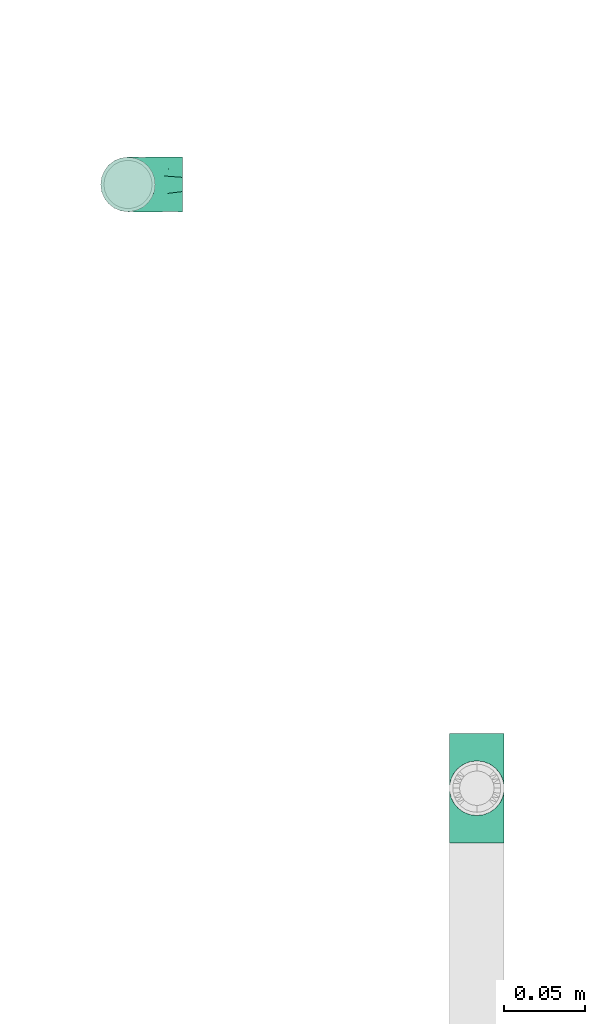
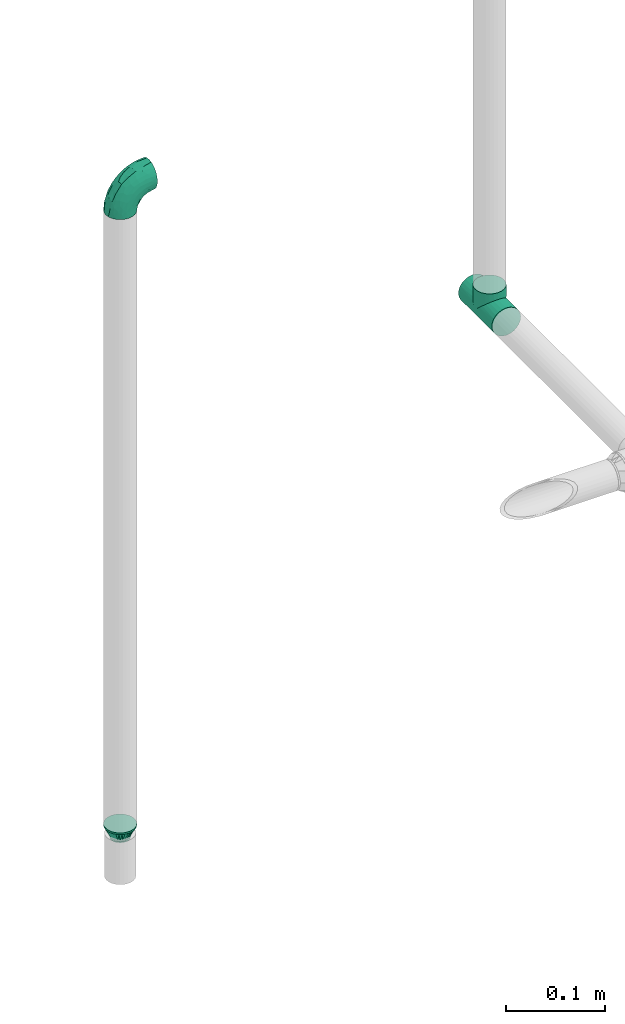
# One storey, part 34 of 94: 3 flow fittings.
"""IFC2X3 building model written with IfcOpenShell, lengths in millimetres."""

import ifcopenshell
import ifcopenshell.guid

model = None  # the IFC model being written
_history = None  # IfcOwnerHistory: only IFC2X3 demands one
_inside = {}  # id of a spatial element -> (the spatial element, [elements in it])
_under = {}  # id of a project, library or spatial element -> (it, [spatial elements below it])
_declared = {}  # id of a project -> (the project, [libraries it declares])
_typed = {}  # id of a type object -> (the type object, [elements of that type])
_made_of = {}  # id of a material, layer set ... -> (it, [elements and type objects made of it])


def new_model(schema):
    """Start an empty IFC model of exactly this schema.

    Asked for "IFC4X3", IfcOpenShell would pick the latest addendum, in which some entities
    have other attributes; the version numbers below select the first issue.
    IFC2X3 requires an IfcOwnerHistory on every rooted entity: one is made here for all.
    """
    global model, _history
    if schema == "IFC4X3":
        model = ifcopenshell.file(schema_version=(4, 3, 0, 0))
    else:
        model = ifcopenshell.file(schema=schema)
    _inside.clear()
    _under.clear()
    _declared.clear()
    _typed.clear()
    _made_of.clear()
    _history = None
    if model.schema == "IFC2X3":
        org = make("IfcOrganization", Name="unknown")
        user = make(
            "IfcPersonAndOrganization",
            ThePerson=make("IfcPerson", FamilyName="unknown"),
            TheOrganization=org,
        )
        app = make(
            "IfcApplication",
            ApplicationDeveloper=org,
            Version="unknown",
            ApplicationFullName="unknown",
            ApplicationIdentifier="unknown",
        )
        _history = make(
            "IfcOwnerHistory",
            OwningUser=user,
            OwningApplication=app,
            ChangeAction="ADDED",
            CreationDate=0,
        )
    return model


def make(cls, **values):
    """One entity of the class cls with the attributes given. An attribute that is None is left unset."""
    return model.create_entity(
        cls, **{name: value for name, value in values.items() if value is not None}
    )


def entity(cls, *values):
    """Any entity or typed value of the class cls, its attributes in the order of the schema. None: left unset."""
    e = model.create_entity(cls)
    for i, value in enumerate(values):
        if value is not None:
            e[i] = value
    return e


def rooted(cls, **values):
    """An entity with a GlobalId (a new one), such as an element, a storey or a relation."""
    return make(cls, GlobalId=ifcopenshell.guid.new(), OwnerHistory=_history, **values)


def si_unit(unit_type, name, prefix=None):
    """IfcSIUnit, for example si_unit("LENGTHUNIT", "METRE", prefix="MILLI")."""
    return make("IfcSIUnit", UnitType=unit_type, Prefix=prefix, Name=name)


def converted_unit(unit_type, name, factor, base, dimensions=None, offset=None):
    """IfcConversionBasedUnit, such as the inch: factor (a typed value) times the base unit."""
    return make(
        "IfcConversionBasedUnit"
        if offset is None
        else "IfcConversionBasedUnitWithOffset",
        ConversionOffset=offset,
        Dimensions=None
        if dimensions is None
        else entity("IfcDimensionalExponents", *dimensions),
        UnitType=unit_type,
        Name=name,
        ConversionFactor=make(
            "IfcMeasureWithUnit", ValueComponent=factor, UnitComponent=base
        ),
    )


def derived_unit(unit_type, elements):
    """IfcDerivedUnit: a product of units, each with its exponent."""
    return make(
        "IfcDerivedUnit",
        Elements=[
            make("IfcDerivedUnitElement", Unit=unit, Exponent=power)
            for unit, power in elements
        ],
        UnitType=unit_type,
    )


def assignment(units):
    """IfcUnitAssignment: the units of a project."""
    return None if units is None else make("IfcUnitAssignment", Units=units)


def point(xyz):
    """IfcCartesianPoint."""
    return None if xyz is None else make("IfcCartesianPoint", Coordinates=xyz)


def direction(xyz):
    """IfcDirection."""
    return None if xyz is None else make("IfcDirection", DirectionRatios=xyz)


def frame(location, z_axis=None, x_axis=None):
    """IfcAxis2Placement3D, a coordinate frame: its origin and axes. An axis left out is left unset."""
    return make(
        "IfcAxis2Placement3D",
        Location=point(location),
        Axis=direction(z_axis),
        RefDirection=direction(x_axis),
    )


def origin_with_axes():
    """The frame at (0, 0, 0) with the z axis (0, 0, 1) and the x axis (1, 0, 0) written out."""
    return frame((0.0, 0.0, 0.0), z_axis=(0.0, 0.0, 1.0), x_axis=(1.0, 0.0, 0.0))


def place(relative_to, where):
    """IfcLocalPlacement: puts the frame where relative to a parent placement (None: the world)."""
    return make(
        "IfcLocalPlacement", PlacementRelTo=relative_to, RelativePlacement=where
    )


def context(
    kind, dimensions, precision=None, world=None, true_north=None, identifier=None
):
    """IfcGeometricRepresentationContext, for example the 3D "Model" context."""
    return make(
        "IfcGeometricRepresentationContext",
        ContextIdentifier=identifier,
        ContextType=kind,
        CoordinateSpaceDimension=dimensions,
        Precision=precision,
        WorldCoordinateSystem=world,
        TrueNorth=true_north,
    )


def subcontext(parent, identifier, kind, view, scale=None):
    """IfcGeometricRepresentationSubContext, for example "Body" below "Model"."""
    return make(
        "IfcGeometricRepresentationSubContext",
        ContextIdentifier=identifier,
        ContextType=kind,
        ParentContext=parent,
        TargetScale=scale,
        TargetView=view,
    )


def project(units=None, contexts=None):
    """IfcProject with its units and contexts."""
    return rooted(
        "IfcProject",
        Name="project",
        RepresentationContexts=contexts,
        UnitsInContext=assignment(units),
    )


def spatial(cls, under=None, at=None, **own):
    """A site, building, storey or space (cls), placed at a placement, below another one or the project."""
    s = rooted(cls, ObjectPlacement=at, **own)
    if under is not None:
        _under.setdefault(under.id(), (under, []))[1].append(s)
    return s


def faces_of(points, faces, orient=None, outer=None):
    """IfcFace entities. A face is a list of loops; a loop is a list of indices into points, from 0.

    orient and outer hold one flag for each loop. By default every Orientation is true, the
    first loop of a face is its IfcFaceOuterBound and the others are IfcFaceBound.
    """
    made = []
    for i, loops in enumerate(faces):
        bounds = []
        for j, loop in enumerate(loops):
            is_outer = j == 0 if outer is None else outer[i][j]
            bounds.append(
                make(
                    "IfcFaceOuterBound" if is_outer else "IfcFaceBound",
                    Bound=make("IfcPolyLoop", Polygon=[points[k] for k in loop]),
                    Orientation=True if orient is None else orient[i][j],
                )
            )
        made.append(make("IfcFace", Bounds=bounds))
    return made


def open_shell(faces, orient=None, outer=None):
    """The faces of one IfcOpenShell. surface_model builds it on its shared points."""
    return ("IfcOpenShell", faces, orient, outer)


def surface_model(cls, points, shells):
    """IfcFaceBasedSurfaceModel or IfcShellBasedSurfaceModel (cls): surfaces that need not close."""
    shared = [point(p) for p in points]
    made = [make(c, CfsFaces=faces_of(shared, fs, o, b)) for c, fs, o, b in shells]
    if cls == "IfcFaceBasedSurfaceModel":
        return make(cls, FbsmFaces=made)
    return make(cls, SbsmBoundary=made)


def shape(context_of_items, identifier, shape_type, items):
    """IfcShapeRepresentation: the items that make up one representation, for example the "Body"."""
    return make(
        "IfcShapeRepresentation",
        ContextOfItems=context_of_items,
        RepresentationIdentifier=identifier,
        RepresentationType=shape_type,
        Items=items,
    )


def source(mapping_origin, context_of_items, identifier, shape_type, items):
    """IfcRepresentationMap: a shape defined once, which mapped items show again and again."""
    return make(
        "IfcRepresentationMap",
        MappingOrigin=mapping_origin,
        MappedRepresentation=shape(context_of_items, identifier, shape_type, items),
    )


def transform(
    local_origin,
    x_axis=None,
    y_axis=None,
    z_axis=None,
    scale=None,
    scale2=None,
    scale3=None,
    uniform=True,
):
    """IfcCartesianTransformationOperator3D, or its non-uniform kind. x_axis, y_axis, z_axis: its Axis1, 2, 3."""
    if uniform:
        return make(
            "IfcCartesianTransformationOperator3D",
            Axis1=direction(x_axis),
            Axis2=direction(y_axis),
            LocalOrigin=point(local_origin),
            Scale=scale,
            Axis3=direction(z_axis),
        )
    return make(
        "IfcCartesianTransformationOperator3DnonUniform",
        Axis1=direction(x_axis),
        Axis2=direction(y_axis),
        LocalOrigin=point(local_origin),
        Scale=scale,
        Axis3=direction(z_axis),
        Scale2=scale2,
        Scale3=scale3,
    )


def mapped(mapping_source, mapping_target):
    """IfcMappedItem: shows the shape of a source again, moved by a transform."""
    return make(
        "IfcMappedItem", MappingSource=mapping_source, MappingTarget=mapping_target
    )


def made_of(thing, what):
    """Note that an element or type object is made of a material, layer set ...; save() writes the relation."""
    if what is not None:
        _made_of.setdefault(what.id(), (what, []))[1].append(thing)
    return thing


def type_object(cls, material=None, **own):
    """A type object (cls), such as IfcWallType, which elements share."""
    return made_of(rooted(cls, **own), material)


def element(
    cls,
    number,
    at=None,
    inside=None,
    cuts=None,
    type_object=None,
    material=None,
    context=None,
    identifier="Body",
    shape_type=None,
    held_by="IfcProductDefinitionShape",
    body=None,
    shapes=None,
    **own,
):
    """One element of the class cls, such as IfcWall. Its Tag is "e" and its number.

    at: its placement. inside: the storey or other place that contains it. cuts: it is an
    opening in that element (IfcRelVoidsElement). A single representation is given by context,
    identifier, shape_type and body (its items); several are given by shapes. held_by: the class
    of the entity that holds the representations. save() writes the other relations.
    """
    e = rooted(cls, Tag="e%d" % number, ObjectPlacement=at, **own)
    if body is not None:
        shapes = [shape(context, identifier, shape_type, body)]
    if shapes is not None:
        e.Representation = make(held_by, Representations=shapes)
    if inside is not None:
        _inside.setdefault(inside.id(), (inside, []))[1].append(e)
    if cuts is not None:
        rooted(
            "IfcRelVoidsElement", RelatingBuildingElement=cuts, RelatedOpeningElement=e
        )
    if type_object is not None:
        _typed.setdefault(type_object.id(), (type_object, []))[1].append(e)
    return made_of(e, material)


def aggregate(whole, parts):
    """IfcRelAggregates: a whole, such as a stair, and the parts it consists of."""
    return rooted("IfcRelAggregates", RelatingObject=whole, RelatedObjects=parts)


def save(model, path):
    """Write the relations noted so far, then the file.

    IfcRelAggregates (storeys below a building ...), IfcRelContainedInSpatialStructure (elements
    in a storey), IfcRelDefinesByType, IfcRelAssociatesMaterial and IfcRelDeclares: one each for
    every whole, place, type object, material and project.
    """
    for whole, parts in _under.values():
        aggregate(whole, parts)
    for where, things in _inside.values():
        rooted(
            "IfcRelContainedInSpatialStructure",
            RelatedElements=things,
            RelatingStructure=where,
        )
    for kind, things in _typed.values():
        rooted("IfcRelDefinesByType", RelatedObjects=things, RelatingType=kind)
    for what, things in _made_of.values():
        rooted("IfcRelAssociatesMaterial", RelatedObjects=things, RelatingMaterial=what)
    for by, libraries in _declared.values():
        rooted("IfcRelDeclares", RelatingContext=by, RelatedDefinitions=libraries)
    model.write(path)


model = new_model("IFC2X3")

# Units and contexts
model_context = context("Model", 3, precision=0.01, world=frame((0.0, 4.29681676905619e-09, 0.0)), true_north=direction((4.01073788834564e-13, 1.0)))
plan_context = context("Plan", 3, precision=0.01, world=frame((0.0, 4.29681676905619e-09, 0.0)), true_north=direction((4.01073788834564e-13, 1.0)))
body_context = subcontext(model_context, "Body", "Model", "MODEL_VIEW")
ifc_project = project(units=[converted_unit("PLANEANGLEUNIT", "DEGREE", entity("IfcPositiveLengthMeasure", 0.0174532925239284), si_unit("PLANEANGLEUNIT", "RADIAN"), dimensions=[0, 0, 0, 0, 0, 0, 0]), si_unit("AREAUNIT", "SQUARE_METRE"), si_unit("LENGTHUNIT", "METRE", prefix="MILLI"), si_unit("MASSUNIT", "GRAM", prefix="KILO"), si_unit("POWERUNIT", "WATT"), si_unit("PRESSUREUNIT", "PASCAL", prefix="KILO"), si_unit("FORCEUNIT", "NEWTON", prefix="KILO"), si_unit("ELECTRICVOLTAGEUNIT", "VOLT"), si_unit("ELECTRICCURRENTUNIT", "AMPERE"), si_unit("THERMODYNAMICTEMPERATUREUNIT", "DEGREE_CELSIUS"), si_unit("TIMEUNIT", "SECOND"), si_unit("VOLUMEUNIT", "CUBIC_METRE"), derived_unit("LINEARVELOCITYUNIT", [(si_unit("LENGTHUNIT", "METRE"), 1), (si_unit("TIMEUNIT", "SECOND"), -1)]), derived_unit("VOLUMETRICFLOWRATEUNIT", [(si_unit("VOLUMEUNIT", "CUBIC_METRE"), 1), (si_unit("TIMEUNIT", "SECOND"), -1)]), derived_unit("THERMALTRANSMITTANCEUNIT", [(si_unit("POWERUNIT", "WATT"), 1), (si_unit("THERMODYNAMICTEMPERATUREUNIT", "KELVIN"), -1), (si_unit("AREAUNIT", "SQUARE_METRE"), -1)]), derived_unit("SOUNDPRESSUREUNIT", [(si_unit("PRESSUREUNIT", "PASCAL"), 1)])], contexts=[model_context, plan_context])

# Site, building, storey
site_placement = place(None, frame((0.0, -4.29681676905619e-09, 0.0), z_axis=(0.0, 0.0, 1.0), x_axis=(1.0, 0.0, 0.0)))
site = spatial("IfcSite", under=ifc_project, at=site_placement, CompositionType="ELEMENT")
building_placement = place(site_placement, frame((0.0, 4.29681676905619e-09, 0.0), z_axis=(0.0, 0.0, 1.0), x_axis=(1.0, 0.0, 0.0)))
building = spatial("IfcBuilding", under=site, at=building_placement, Name="mc-building", CompositionType="ELEMENT")
storey_placement = place(building_placement, frame((0.0, 0.0, 210900.0), z_axis=(0.0, 0.0, 1.0), x_axis=(1.0, 0.0, 0.0)))
storey = spatial("IfcBuildingStorey", under=building, at=storey_placement, Name="Nivå F", CompositionType="ELEMENT", Elevation=210900.0)

# Flow fittings
pipe_fitting_type_1 = type_object("IfcPipeFittingType", Name="magi_pipe_fe_tee_centric_90_NOR", PredefinedType="JUNCTION")
shared_shape_1 = source(origin_with_axes(), body_context, "Body", "SurfaceModel", [
    surface_model("IfcShellBasedSurfaceModel", [(-33.8, 4.37404, -16.32415), (-33.8, 0.0, -16.9), (-33.8, 16.32415, -4.37404), (-33.8, 8.45, -14.63583), (-33.8, 11.9501, -11.9501), (-33.8, 14.63583, -8.45), (-33.8, -16.9, 0.0), (-33.8, -11.9501, -11.9501), (-33.8, -14.63583, -8.45), (-33.8, -8.45, -14.63583), (-33.8, -4.37404, -16.32415), (-33.8, -16.32415, -4.37404), (-33.8, 14.63583, 8.45), (-33.8, 16.32415, 4.37404), (-33.8, -8.45, 14.63583), (-33.8, 8.45, 14.63583), (-33.8, 11.9501, 11.9501), (-33.8, 4.37404, 16.32415), (-33.8, 0.0, 16.9), (-33.8, -11.9501, 11.9501), (-33.8, -14.63583, 8.45), (-33.8, -16.32415, 4.37404), (-33.8, -4.37404, 16.32415), (-33.8, 16.9, 0.0), (33.8, 4.37404, -16.32415), (33.8, -16.9, 0.0), (33.8, 0.0, -16.9), (33.8, 14.63583, -8.45), (33.8, 8.45, -14.63583), (33.8, 16.32415, -4.37404), (33.8, 11.9501, -11.9501), (33.8, -16.32415, 4.37404), (33.8, -8.45, -14.63583), (33.8, -4.37404, -16.32415), (33.8, -11.9501, -11.9501), (33.8, -14.63583, -8.45), (33.8, -16.32415, -4.37404), (33.8, 16.32415, 4.37404), (33.8, 8.45, 14.63583), (33.8, 14.63583, 8.45), (33.8, 11.9501, 11.9501), (33.8, -8.45, 14.63583), (33.8, 4.37404, 16.32415), (33.8, -14.63583, 8.45), (33.8, -11.9501, 11.9501), (33.8, 0.0, 16.9), (33.8, -4.37404, 16.32415), (33.8, 16.9, 0.0), (16.28698, -16.28698, 4.51047), (16.9, -16.9, 0.0), (14.62704, -14.62704, 8.4652), (9.47213, -9.47213, 13.99602), (12.26343, -12.26343, 11.62834), (-16.9, -16.9, 0.0), (-16.28698, -16.28698, 4.51047), (-14.62704, -14.62704, 8.4652), (-12.26343, -12.26343, 11.62834), (-9.47213, -9.47213, 13.99602), (-6.42894, -6.42894, 15.62942), (6.42894, -6.42894, 15.62942), (3.24522, -3.24522, 16.58549), (0.0, 0.0, 16.9), (-3.24522, -3.24522, 16.58549), (3.24522, -3.24522, -16.58549), (0.0, 0.0, -16.9), (-3.24522, -3.24522, -16.58549), (-6.42894, -6.42894, -15.62942), (6.42894, -6.42894, -15.62942), (9.47213, -9.47213, -13.99602), (12.26343, -12.26343, -11.62834), (14.62704, -14.62704, -8.4652), (16.28698, -16.28698, -4.51047), (-9.47213, -9.47213, -13.99602), (-12.26343, -12.26343, -11.62834), (-16.28698, -16.28698, -4.51047), (-14.62704, -14.62704, -8.4652), (4.37404, -25.35, -16.32415), (-16.9, -25.35, 0.0), (0.0, -25.35, -16.9), (14.63583, -25.35, -8.45), (8.45, -25.35, -14.63583), (16.32415, -25.35, -4.37404), (11.9501, -25.35, -11.9501), (-11.9501, -25.35, -11.9501), (-8.45, -25.35, -14.63583), (-4.37404, -25.35, -16.32415), (-14.63583, -25.35, -8.45), (-16.32415, -25.35, -4.37404), (16.9, -25.35, 0.0), (8.45, -25.35, 14.63583), (16.32415, -25.35, 4.37404), (14.63583, -25.35, 8.45), (-8.45, -25.35, 14.63583), (11.9501, -25.35, 11.9501), (4.37404, -25.35, 16.32415), (-16.32415, -25.35, 4.37404), (-11.9501, -25.35, 11.9501), (-14.63583, -25.35, 8.45), (0.0, -25.35, 16.9), (-4.37404, -25.35, 16.32415)], [open_shell([[[0, 1, 2]], [[3, 0, 4]], [[0, 2, 5]], [[4, 0, 5]], [[6, 2, 1]], [[7, 8, 9]], [[1, 10, 9]], [[11, 6, 8]], [[1, 9, 8]], [[1, 8, 6]], [[6, 12, 2]], [[12, 13, 2]], [[14, 12, 6]], [[12, 14, 15]], [[16, 12, 15]], [[17, 15, 18]], [[19, 14, 20]], [[21, 20, 14]], [[22, 18, 14]], [[14, 6, 21]], [[14, 18, 15]], [[23, 2, 13]], [[24, 25, 26]], [[27, 24, 28]], [[27, 29, 24]], [[27, 28, 30]], [[31, 25, 24]], [[26, 32, 33]], [[26, 34, 32]], [[35, 25, 36]], [[35, 34, 26]], [[25, 35, 26]], [[24, 29, 31]], [[29, 37, 38]], [[38, 37, 39]], [[38, 31, 29]], [[38, 39, 40]], [[41, 38, 42]], [[43, 41, 44]], [[41, 43, 31]], [[41, 45, 46]], [[41, 31, 38]], [[42, 45, 41]], [[29, 47, 37]], [[31, 43, 48]], [[25, 31, 49]], [[49, 31, 48]], [[43, 50, 48]], [[44, 41, 51]], [[50, 43, 52]], [[51, 52, 44]], [[52, 43, 44]], [[53, 54, 21]], [[53, 21, 6]], [[21, 54, 20]], [[54, 55, 20]], [[56, 57, 19]], [[19, 20, 56]], [[19, 57, 14]], [[56, 20, 55]], [[14, 57, 58]], [[51, 41, 59]], [[60, 45, 61]], [[59, 46, 60]], [[46, 59, 41]], [[60, 46, 45]], [[61, 45, 42]], [[39, 37, 13]], [[16, 38, 40]], [[12, 40, 39]], [[42, 38, 15]], [[23, 37, 47]], [[62, 61, 18]], [[62, 22, 58]], [[22, 62, 18]], [[58, 22, 14]], [[61, 17, 18]], [[42, 17, 61]], [[15, 17, 42]], [[15, 38, 16]], [[12, 16, 40]], [[13, 12, 39]], [[37, 23, 13]], [[5, 27, 30]], [[23, 47, 29]], [[30, 28, 3]], [[27, 2, 29]], [[26, 33, 63]], [[26, 64, 24]], [[64, 26, 63]], [[28, 24, 0]], [[64, 0, 24]], [[4, 30, 3]], [[2, 27, 5]], [[5, 30, 4]], [[2, 23, 29]], [[65, 66, 10]], [[1, 0, 64]], [[1, 65, 10]], [[66, 9, 10]], [[0, 3, 28]], [[1, 64, 65]], [[63, 33, 67]], [[32, 34, 68]], [[69, 68, 34]], [[35, 70, 69]], [[69, 34, 35]], [[32, 68, 67]], [[36, 25, 49]], [[36, 71, 35]], [[71, 36, 49]], [[35, 71, 70]], [[72, 9, 66]], [[72, 7, 9]], [[7, 72, 73]], [[7, 73, 8]], [[74, 53, 11]], [[75, 74, 8]], [[74, 11, 8]], [[11, 53, 6]], [[75, 8, 73]], [[32, 67, 33]], [[76, 77, 78]], [[79, 76, 80]], [[79, 81, 76]], [[79, 80, 82]], [[77, 76, 81]], [[78, 83, 84]], [[84, 85, 78]], [[86, 77, 87]], [[83, 78, 86]], [[77, 86, 78]], [[81, 88, 77]], [[89, 88, 90]], [[89, 90, 91]], [[92, 77, 89]], [[89, 91, 93]], [[92, 89, 94]], [[95, 96, 97]], [[96, 95, 92]], [[92, 98, 99]], [[95, 77, 92]], [[94, 98, 92]], [[89, 77, 88]], [[77, 95, 53]], [[54, 53, 95]], [[97, 96, 56]], [[96, 92, 57]], [[95, 97, 54]], [[58, 92, 99]], [[55, 54, 97]], [[56, 55, 97]], [[58, 57, 92]], [[98, 61, 62]], [[58, 99, 62]], [[56, 96, 57]], [[62, 99, 98]], [[94, 60, 98]], [[89, 59, 94]], [[91, 90, 48]], [[52, 93, 91]], [[93, 51, 89]], [[49, 90, 88]], [[59, 60, 94]], [[51, 59, 89]], [[49, 48, 90]], [[50, 52, 91]], [[48, 50, 91]], [[51, 93, 52]], [[98, 60, 61]], [[88, 81, 49]], [[71, 49, 81]], [[79, 82, 69]], [[82, 80, 68]], [[81, 79, 71]], [[67, 80, 76]], [[70, 71, 79]], [[69, 70, 79]], [[67, 68, 80]], [[78, 64, 63]], [[67, 76, 63]], [[69, 82, 68]], [[63, 76, 78]], [[85, 65, 78]], [[84, 66, 85]], [[86, 87, 74]], [[86, 73, 83]], [[72, 84, 83]], [[53, 87, 77]], [[66, 65, 85]], [[72, 66, 84]], [[53, 74, 87]], [[75, 73, 86]], [[74, 75, 86]], [[72, 83, 73]], [[78, 65, 64]]])]),
])
flow_fitting_1_placement = place(storey_placement, frame((719215.77033, 438227.23424, 3600.0), z_axis=(-1.0, 0.0, 0.0), x_axis=(0.0, 1.0, 0.0)))
element("IfcFlowFitting", 1, at=flow_fitting_1_placement, inside=storey, type_object=pipe_fitting_type_1, Name="magi_pipe_fe_tee_centric_90_NOR", context=body_context, shape_type="MappedRepresentation", body=[
    mapped(shared_shape_1, transform((0.0, 0.0, 0.0), scale=1.0)),
])
pipe_fitting_type_2 = type_object("IfcPipeFittingType", Name="magi_pipe_fe_elbow_short_001", PredefinedType="BEND")
shared_shape_2 = source(origin_with_axes(), body_context, "Body", "SurfaceModel", [
    surface_model("IfcShellBasedSurfaceModel", [(-33.8, 8.45, -14.63583), (-33.8, 4.37404, -16.32415), (-33.8, 11.9501, -11.9501), (-33.8, -11.9501, -11.9501), (-33.8, -14.63583, -8.45), (-33.8, -8.45, -14.63583), (-33.8, 0.0, -16.9), (-33.8, -4.37404, -16.32415), (-33.8, -4.37404, 16.32415), (-33.8, 0.0, 16.9), (-33.8, -8.45, 14.63583), (-33.8, 16.32415, -4.37404), (-33.8, 14.63583, -8.45), (-33.8, -16.32415, -4.37404), (-33.8, -16.9, 0.0), (-33.8, -16.32415, 4.37404), (-33.8, 11.9501, 11.9501), (-33.8, 14.63583, 8.45), (-33.8, 16.32415, 4.37404), (-33.8, 4.37404, 16.32415), (-33.8, 8.45, 14.63583), (-33.8, -14.63583, 8.45), (-33.8, -11.9501, 11.9501), (-33.8, 16.9, 0.0), (-11.9501, 33.8, -11.9501), (0.0, 33.8, -16.9), (-4.37404, 33.8, -16.32415), (-8.45, 33.8, -14.63583), (-14.63583, 33.8, -8.45), (-16.32415, 33.8, -4.37404), (14.63583, 33.8, -8.45), (8.45, 33.8, 14.63583), (16.32415, 33.8, -4.37404), (8.45, 33.8, -14.63583), (11.9501, 33.8, -11.9501), (4.37404, 33.8, -16.32415), (16.32415, 33.8, 4.37404), (16.9, 33.8, 0.0), (-11.9501, 33.8, 11.9501), (-16.32415, 33.8, 4.37404), (-14.63583, 33.8, 8.45), (-8.45, 33.8, 14.63583), (-4.37404, 33.8, 16.32415), (11.9501, 33.8, 11.9501), (14.63583, 33.8, 8.45), (0.0, 33.8, 16.9), (4.37404, 33.8, 16.32415), (-16.9, 33.8, 0.0), (-24.79389, -13.12945, 9.48721), (-22.19287, -9.75018, 12.59315), (-24.09897, -14.97035, 0.0), (-14.93934, -10.76256, 8.5297), (-22.46095, -14.75051, 5.27077), (14.75051, 22.46094, 5.27077), (11.9251, 13.23888, 4.33236), (13.04069, 14.39795, 0.0), (7.71387, 13.68847, 11.55891), (9.75018, 22.19287, 12.59315), (4.10169, 13.0571, 14.04018), (-24.84007, -6.39063, 15.2048), (-25.81779, -2.23879, 16.61097), (-23.66549, 2.59054, 16.87119), (-26.50418, 14.06512, 11.08152), (-24.21253, 17.66365, 7.72657), (-29.58514, 15.86957, 7.00283), (-6.17382, -7.5455, 0.0), (-13.23888, -11.9251, 4.33236), (-14.39795, -13.04069, 0.0), (-17.81434, 18.87373, 11.97104), (-6.30846, 29.15138, 15.82987), (-2.31622, 25.28002, 16.85849), (-29.23923, 10.23435, 13.77053), (-1.45439, -2.85688, 7.61475), (-0.28326, 0.34872, 10.09509), (-5.74484, -4.04709, 10.4122), (-4.41137, 11.31918, 16.59407), (-8.39727, 3.10034, 15.7812), (-1.72649, 9.1306, 15.53089), (-17.39909, 24.75344, 7.64977), (-26.19233, 20.0512, 0.0), (-28.14518, 17.29657, 4.25857), (-26.05147, 6.6281, 15.96447), (-5.87354, 16.61944, 16.86968), (-12.51807, 12.51807, 16.48937), (-10.06312, 7.38516, 16.81295), (-3.01882, 3.01882, 13.81718), (-13.0571, -4.10169, 14.04018), (-16.82553, -0.15166, 16.38038), (10.76256, 14.93934, 8.5297), (13.12945, 24.79389, 9.48721), (6.39063, 24.84007, 15.2048), (2.23879, 25.81779, 16.61097), (-13.68847, -7.71387, 11.55891), (14.97035, 24.09897, 0.0), (-7.30894, 22.89991, 16.09489), (-10.67958, 26.17414, 14.008), (-12.78295, 18.26924, 15.06066), (-13.88562, 22.45231, 12.93244), (-18.04944, 15.16501, 14.04434), (-23.11658, 20.08178, 4.02986), (-21.84989, 21.84989, 0.0), (-18.55817, 25.48277, 3.93065), (-13.95142, 26.94732, 11.03289), (-18.57098, 7.23906, 16.59756), (-16.58335, 4.14122, 16.89279), (-17.96666, 11.46709, 15.63151), (-9.84453, 17.54304, 16.18938), (0.15166, 16.82553, 16.38038), (-23.27207, 11.47201, 14.23154), (3.84842, 5.86994, 10.70473), (-8.0212, -7.54413, 7.93275), (1.00345, -2.19508, 4.57414), (5.13203, 3.01004, 5.90201), (5.24161, 1.7543, 2.53265), (8.70457, 7.04947, 3.99182), (-20.0512, 26.19233, 0.0), (8.4852, 8.76699, 7.09296), (-4.55488, -6.72064, 4.90681), (2.05031, -2.05031, 0.0), (7.5455, 6.17382, 0.0), (-26.75399, 2.1369, -16.845), (-14.61995, 24.73803, -11.27736), (-28.45274, -13.45335, -9.81895), (-26.00469, 6.63555, -15.96645), (-23.06726, 20.04573, -4.26202), (-13.80647, -4.26506, -14.17873), (-14.67501, -0.21081, -16.07388), (-6.7902, -0.2828, -13.8478), (-24.53586, 11.08096, -14.13417), (-26.72048, 14.00837, -11.05776), (10.0967, 24.44989, -12.75976), (5.83237, 21.40218, -15.03047), (6.66249, 28.54238, -15.38093), (-20.38182, 15.48705, -12.74596), (12.53268, 21.23441, -9.15363), (12.54494, 15.67504, -5.54878), (9.7522, 12.89279, -8.66343), (-15.65186, 19.64213, -13.01327), (-12.03528, 20.66498, -14.67665), (-15.61907, 15.61906, -14.83879), (-25.56551, -15.26206, 0.0), (-24.65452, -15.12934, -5.50955), (13.45335, 28.45274, -9.81895), (15.12934, 24.65452, -5.50955), (-7.35442, -8.31014, -5.65563), (-15.67504, -12.54494, -5.54878), (-24.44989, -10.0967, -12.75976), (0.16522, 0.41303, -9.71728), (-5.70658, -5.33066, -8.89288), (-5.13869, -2.37198, -11.53565), (-21.23441, -12.53268, -9.15363), (0.71146, 7.93863, -14.09382), (0.21081, 14.67501, -16.07388), (3.49291, 14.42772, -14.76381), (-24.89911, -2.13088, -16.591), (-28.54238, -6.66249, -15.38093), (-18.44386, -7.71663, -13.26957), (2.13088, 24.89911, -16.591), (-28.64342, 17.44413, -2.89318), (1.70017, -1.28722, -5.09504), (-16.57067, 26.81947, -7.36596), (-17.69055, 27.4263, -3.76405), (-12.89279, -9.7522, -8.66343), (-5.96611, 5.96611, -15.95814), (-20.53709, 20.09345, -8.28985), (-2.1369, 26.75399, -16.845), (-6.89872, 24.58781, -16.02578), (-10.60739, 26.53157, -13.98044), (-21.40218, -5.83237, -15.03047), (2.93192, 5.89627, -11.55917), (6.89393, 12.61842, -11.82233), (5.58056, 5.95325, -8.79455), (-3.99512, 18.61798, -16.89635), (8.31014, 7.35442, -5.65563), (-9.1383, 9.86148, -16.89041), (-9.99983, 16.02119, -16.39699), (-16.68576, 9.78031, -16.34199), (-27.01915, 16.61158, -7.12979), (15.26206, 25.56551, 0.0), (-18.61798, 3.99512, -16.89635), (-19.37495, 27.82495, 0.0), (-12.61842, -6.89393, -11.82233), (-18.84705, 19.14018, -10.96545)], [open_shell([[[0, 1, 2]], [[3, 4, 5]], [[6, 7, 5]], [[8, 9, 10]], [[1, 6, 2]], [[11, 12, 2]], [[4, 2, 6]], [[2, 13, 10]], [[5, 4, 6]], [[2, 4, 13]], [[14, 15, 13]], [[11, 2, 16]], [[11, 17, 18]], [[11, 16, 17]], [[19, 20, 16]], [[16, 2, 10]], [[19, 16, 10]], [[21, 22, 15]], [[22, 13, 15]], [[22, 10, 13]], [[10, 9, 19]], [[11, 18, 23]], [[24, 25, 26]], [[24, 26, 27]], [[24, 28, 29]], [[25, 24, 30]], [[31, 32, 24]], [[33, 30, 34]], [[33, 35, 25]], [[25, 30, 33]], [[32, 30, 24]], [[32, 36, 37]], [[38, 24, 29]], [[39, 40, 29]], [[40, 38, 29]], [[38, 41, 42]], [[38, 31, 24]], [[31, 38, 42]], [[36, 43, 44]], [[36, 32, 43]], [[31, 45, 46]], [[32, 31, 43]], [[42, 45, 31]], [[39, 29, 47]], [[22, 48, 49]], [[15, 14, 50]], [[51, 48, 52]], [[53, 54, 55]], [[48, 22, 21]], [[15, 52, 21]], [[56, 57, 58]], [[49, 10, 22]], [[49, 59, 10]], [[9, 60, 61]], [[62, 63, 64]], [[65, 66, 67]], [[57, 43, 31]], [[62, 68, 63]], [[42, 69, 70]], [[20, 71, 16]], [[8, 60, 9]], [[72, 73, 74]], [[75, 76, 77]], [[16, 62, 17]], [[40, 39, 78]], [[79, 23, 80]], [[64, 18, 17]], [[9, 61, 19]], [[19, 81, 20]], [[82, 83, 84]], [[74, 85, 86]], [[59, 86, 87]], [[88, 89, 57]], [[90, 31, 46]], [[44, 53, 36]], [[46, 45, 91]], [[54, 53, 88]], [[44, 89, 53]], [[92, 86, 49]], [[89, 44, 43]], [[10, 59, 8]], [[53, 55, 93]], [[93, 36, 53]], [[66, 52, 67]], [[94, 82, 70]], [[95, 96, 94]], [[97, 98, 96]], [[79, 99, 100]], [[41, 38, 95]], [[101, 100, 99]], [[68, 78, 63]], [[42, 41, 69]], [[23, 18, 80]], [[95, 94, 69]], [[78, 101, 99]], [[38, 102, 95]], [[70, 45, 42]], [[97, 95, 102]], [[15, 50, 52]], [[90, 57, 31]], [[57, 90, 58]], [[81, 19, 61]], [[103, 104, 84]], [[105, 81, 103]], [[38, 40, 102]], [[106, 96, 83]], [[94, 106, 82]], [[91, 70, 107]], [[71, 62, 16]], [[62, 108, 98]], [[86, 59, 49]], [[67, 52, 50]], [[60, 59, 87]], [[92, 49, 51]], [[86, 85, 76]], [[91, 90, 46]], [[37, 36, 93]], [[107, 77, 58]], [[107, 58, 90]], [[58, 85, 109]], [[110, 74, 92]], [[72, 74, 110]], [[66, 51, 52]], [[72, 111, 112]], [[113, 114, 112]], [[56, 88, 57]], [[52, 48, 21]], [[49, 48, 51]], [[57, 89, 43]], [[53, 89, 88]], [[103, 81, 61]], [[71, 81, 108]], [[18, 64, 80]], [[63, 78, 99]], [[47, 115, 101]], [[101, 115, 100]], [[40, 78, 102]], [[68, 102, 78]], [[97, 96, 95]], [[105, 98, 108]], [[103, 84, 83]], [[107, 70, 82]], [[76, 84, 87]], [[82, 84, 75]], [[70, 91, 45]], [[90, 91, 107]], [[59, 60, 8]], [[61, 60, 87]], [[73, 85, 74]], [[109, 112, 116]], [[103, 61, 104]], [[105, 103, 83]], [[96, 105, 83]], [[81, 105, 108]], [[96, 98, 105]], [[62, 98, 68]], [[61, 87, 104]], [[87, 84, 104]], [[86, 76, 87]], [[77, 76, 85]], [[58, 77, 85]], [[75, 77, 107]], [[82, 75, 107]], [[76, 75, 84]], [[81, 71, 20]], [[62, 71, 108]], [[95, 69, 41]], [[70, 69, 94]], [[62, 64, 17]], [[80, 63, 99]], [[63, 80, 64]], [[80, 99, 79]], [[66, 65, 117]], [[110, 66, 117]], [[112, 114, 116]], [[118, 117, 65]], [[110, 92, 51]], [[112, 111, 113]], [[119, 55, 54]], [[74, 86, 92]], [[58, 109, 56]], [[116, 56, 109]], [[66, 110, 51]], [[72, 110, 117]], [[111, 72, 117]], [[73, 112, 109]], [[117, 118, 111]], [[113, 111, 118]], [[118, 119, 113]], [[114, 119, 54]], [[119, 114, 113]], [[116, 54, 88]], [[54, 116, 114]], [[116, 88, 56]], [[112, 73, 72]], [[85, 73, 109]], [[78, 39, 101]], [[47, 101, 39]], [[102, 68, 97]], [[97, 68, 98]], [[82, 106, 83]], [[94, 96, 106]], [[1, 120, 6]], [[28, 24, 121]], [[3, 122, 4]], [[0, 123, 1]], [[100, 124, 79]], [[125, 126, 127]], [[128, 2, 129]], [[130, 131, 132]], [[128, 129, 133]], [[134, 135, 136]], [[137, 138, 139]], [[128, 0, 2]], [[67, 140, 141]], [[134, 142, 143]], [[141, 13, 4]], [[144, 65, 145]], [[146, 3, 5]], [[147, 148, 149]], [[145, 141, 150]], [[151, 152, 153]], [[154, 7, 6]], [[5, 155, 146]], [[150, 146, 156]], [[155, 5, 7]], [[143, 135, 134]], [[35, 157, 25]], [[23, 79, 158]], [[148, 159, 144]], [[160, 161, 29]], [[145, 162, 144]], [[163, 152, 151]], [[29, 28, 160]], [[121, 164, 160]], [[33, 34, 130]], [[25, 165, 26]], [[26, 165, 166]], [[142, 34, 30]], [[24, 27, 167]], [[124, 161, 164]], [[157, 35, 132]], [[155, 154, 168]], [[123, 0, 128]], [[169, 170, 171]], [[172, 157, 152]], [[26, 166, 27]], [[132, 35, 33]], [[142, 130, 34]], [[168, 154, 126]], [[136, 135, 173]], [[133, 137, 139]], [[2, 12, 129]], [[170, 131, 130]], [[30, 32, 143]], [[172, 174, 175]], [[176, 123, 128]], [[158, 177, 11]], [[135, 55, 119]], [[167, 27, 166]], [[175, 166, 172]], [[137, 167, 138]], [[122, 141, 4]], [[140, 14, 13]], [[32, 37, 178]], [[170, 130, 134]], [[152, 157, 131]], [[165, 157, 172]], [[153, 170, 151]], [[152, 163, 174]], [[168, 125, 156]], [[122, 146, 150]], [[120, 154, 6]], [[179, 174, 126]], [[179, 126, 154]], [[126, 163, 127]], [[162, 145, 150]], [[140, 13, 141]], [[32, 178, 143]], [[55, 143, 178]], [[177, 129, 12]], [[128, 133, 139]], [[176, 128, 139]], [[120, 123, 179]], [[121, 160, 28]], [[161, 100, 180]], [[166, 175, 138]], [[121, 24, 167]], [[161, 47, 29]], [[79, 124, 158]], [[124, 164, 177]], [[161, 124, 100]], [[136, 171, 170]], [[127, 163, 151]], [[147, 171, 159]], [[148, 144, 162]], [[127, 151, 169]], [[127, 181, 125]], [[129, 177, 164]], [[12, 11, 177]], [[159, 65, 144]], [[67, 141, 145]], [[143, 55, 135]], [[135, 119, 173]], [[123, 120, 1]], [[154, 120, 179]], [[157, 165, 25]], [[166, 165, 172]], [[172, 152, 174]], [[176, 139, 175]], [[126, 174, 163]], [[176, 174, 179]], [[174, 176, 175]], [[123, 176, 179]], [[150, 181, 162]], [[127, 149, 181]], [[181, 148, 162]], [[159, 148, 147]], [[171, 136, 173]], [[170, 134, 136]], [[159, 171, 173]], [[171, 147, 169]], [[169, 147, 149]], [[151, 170, 169]], [[164, 182, 129]], [[182, 121, 137]], [[181, 149, 148]], [[169, 149, 127]], [[182, 137, 133]], [[167, 137, 121]], [[166, 138, 167]], [[175, 139, 138]], [[129, 182, 133]], [[121, 182, 164]], [[161, 160, 164]], [[47, 161, 180]], [[177, 158, 124]], [[23, 158, 11]], [[130, 132, 33]], [[157, 132, 131]], [[143, 142, 30]], [[130, 142, 134]], [[154, 155, 7]], [[146, 155, 168]], [[146, 122, 3]], [[141, 122, 150]], [[152, 131, 153]], [[159, 119, 118]], [[67, 145, 65]], [[170, 153, 131]], [[119, 159, 173]], [[159, 118, 65]], [[156, 125, 181]], [[126, 125, 168]], [[150, 156, 181]], [[168, 156, 146]]])]),
])
flow_fitting_2_placement = place(storey_placement, frame((719000.0, 438600.7, 3600.0), z_axis=(0.0, 1.0, 0.0), x_axis=(0.0, 0.0, 1.0)))
element("IfcFlowFitting", 2, at=flow_fitting_2_placement, inside=storey, type_object=pipe_fitting_type_2, Name="magi_pipe_fe_elbow_short_001", context=body_context, shape_type="MappedRepresentation", body=[
    mapped(shared_shape_2, transform((0.0, 0.0, 0.0), scale=1.0)),
])
pipe_fitting_type_3 = type_object("IfcPipeFittingType", Name="magi_pipe_fe_reducer_centric_short_NOR", PredefinedType="TRANSITION")
shared_shape_3 = source(origin_with_axes(), body_context, "Body", "SurfaceModel", [
    surface_model("IfcShellBasedSurfaceModel", [(-2.0, -7.56604, -7.56604), (-2.0, -10.33541, -2.76936), (-2.0, -5.35, -9.26647), (-2.0, 5.35, -9.26647), (-2.0, 10.33541, -2.76936), (-2.0, 7.56604, -7.56604), (12.4, 11.9501, 11.9501), (12.4, 0.0, 16.9), (12.4, 11.9501, -11.9501), (12.4, 16.9, 0.0), (0.0, -10.7, 0.0), (0.0, -5.35, 9.26647), (0.0, -5.35, -9.26647), (0.0, 10.7, 0.0), (12.4, 15.66253, -2.98753), (12.4, 8.96258, -13.18758), (0.0, 6.6875, -6.94985), (12.4, -15.66253, -2.98753), (12.4, -16.9, 0.0), (12.4, 5.97505, -14.42505), (0.0, 5.35, -9.26647), (12.4, 14.42505, -5.97505), (0.0, 8.025, -4.63324), (0.0, 9.3625, -2.31662), (0.0, -9.3625, -2.31662), (0.0, -8.025, -4.63324), (12.4, -14.42505, -5.97505), (12.4, 13.18758, -8.96258), (12.4, -13.18758, -8.96258), (12.4, -11.9501, -11.9501), (0.0, -6.6875, -6.94985), (12.4, -8.96258, -13.18758), (12.4, -5.97505, -14.42505), (12.4, -15.66253, 2.98753), (12.4, -8.96258, 13.18758), (0.0, -6.6875, 6.94985), (12.4, -11.9501, 11.9501), (12.4, 15.66253, 2.98753), (12.4, -5.97505, 14.42505), (12.4, -14.42505, 5.97505), (0.0, -8.025, 4.63324), (0.0, -9.3625, 2.31662), (0.0, 9.3625, 2.31662), (0.0, 8.025, 4.63324), (12.4, 14.42505, 5.97505), (12.4, -13.18758, 8.96258), (12.4, 13.18758, 8.96258), (0.0, 6.6875, 6.94985), (12.4, 8.96258, 13.18758), (0.0, 5.35, 9.26647), (12.4, 5.97505, 14.42505), (14.4, 4.37404, -16.32415), (14.4, 8.45, -14.63583), (14.4, 11.9501, -11.9501), (14.4, -8.45, -14.63583), (14.4, 16.32415, -4.37404), (14.4, 16.32415, 4.37404), (14.4, 14.63583, -8.45), (14.4, 0.0, -16.9), (14.4, -4.37404, -16.32415), (14.4, -11.9501, -11.9501), (14.4, -16.32415, -4.37404), (14.4, -14.63583, -8.45), (14.4, -16.32415, 4.37404), (14.4, 16.9, 0.0), (14.4, 14.63583, 8.45), (14.4, 11.9501, 11.9501), (14.4, 4.37404, 16.32415), (14.4, 8.45, 14.63583), (14.4, 0.0, 16.9), (14.4, -14.63583, 8.45), (14.4, -16.9, 0.0), (14.4, -8.45, 14.63583), (14.4, -11.9501, 11.9501), (14.4, -4.37404, 16.32415), (12.4, 4.37404, 16.32415), (12.4, -14.63583, 8.45), (12.4, 16.32415, 4.37404), (12.4, 8.45, 14.63583), (12.4, 14.63583, 8.45), (12.4, -8.45, 14.63583), (12.4, -4.37404, 16.32415), (12.4, -16.32415, 4.37404), (12.4, -16.32415, -4.37404), (12.4, -8.45, -14.63583), (12.4, 16.32415, -4.37404), (12.4, 14.63583, -8.45), (12.4, 8.45, -14.63583), (12.4, 4.37404, -16.32415), (12.4, 0.0, -16.9), (12.4, -14.63583, -8.45), (12.4, -4.37404, -16.32415), (-2.0, 2.76936, 10.33541), (-2.0, 0.0, 10.7), (-2.0, 5.35, 9.26647), (-2.0, 7.56604, 7.56604), (-2.0, 9.26647, 5.35), (-2.0, 10.33541, 2.76936), (-2.0, -10.33541, 2.76936), (-2.0, -2.76936, 10.33541), (-2.0, -7.56604, 7.56604), (-2.0, -5.35, 9.26647), (-2.0, -9.26647, 5.35), (-2.0, -10.7, 0.0), (-2.0, 9.26647, -5.35), (-2.0, 2.76936, -10.33541), (-2.0, -9.26647, -5.35), (-2.0, 0.0, -10.7), (-2.0, -2.76936, -10.33541), (-2.0, 10.7, 0.0), (0.0, 0.0, -10.7), (0.0, 2.76936, -10.33541), (0.0, 10.33541, -2.76936), (0.0, 7.56604, -7.56604), (0.0, -10.33541, -2.76936), (0.0, 9.26647, -5.35), (0.0, 0.0, 10.7), (0.0, -2.76936, -10.33541), (0.0, -7.56604, -7.56604), (0.0, -9.26647, -5.35), (0.0, 10.33541, 2.76936), (0.0, 9.26647, 5.35), (0.0, 7.56604, 7.56604), (0.0, 2.76936, 10.33541), (0.0, -7.56604, 7.56604), (0.0, -10.33541, 2.76936), (0.0, -9.26647, 5.35), (0.0, -2.76936, 10.33541), (0.0, 2.675, -9.26647), (0.0, -2.675, -9.26647), (12.4, 2.98753, -15.66253), (0.0, 0.0, -9.26647), (12.4, -2.98753, -15.66253), (0.0, -2.675, 9.26647), (0.0, 2.675, 9.26647), (12.4, -2.98753, 15.66253), (0.0, 0.0, 9.26647), (12.4, 2.98753, 15.66253)], [open_shell([[[0, 1, 2]], [[3, 4, 5]], [[6, 7, 8]], [[8, 9, 6]], [[10, 11, 12]], [[13, 9, 14]], [[15, 16, 8]], [[17, 18, 10]], [[15, 19, 20]], [[21, 22, 23]], [[24, 25, 26]], [[22, 21, 27]], [[28, 26, 25]], [[29, 30, 31]], [[12, 32, 31]], [[10, 18, 33]], [[34, 35, 36]], [[37, 9, 13]], [[34, 38, 11]], [[39, 40, 41]], [[42, 43, 44]], [[40, 39, 45]], [[46, 44, 43]], [[6, 47, 48]], [[49, 50, 48]], [[51, 52, 53]], [[54, 51, 53]], [[53, 55, 56]], [[55, 53, 57]], [[53, 56, 54]], [[58, 54, 59]], [[58, 51, 54]], [[60, 61, 62]], [[61, 60, 54]], [[54, 63, 61]], [[56, 55, 64]], [[56, 65, 66]], [[56, 66, 67]], [[67, 63, 54]], [[67, 66, 68]], [[63, 67, 69]], [[69, 70, 63]], [[71, 61, 63]], [[70, 72, 73]], [[70, 69, 72]], [[72, 69, 74]], [[54, 56, 67]], [[75, 76, 7]], [[77, 75, 78]], [[6, 79, 77]], [[6, 77, 78]], [[76, 75, 77]], [[80, 76, 36]], [[80, 81, 7]], [[7, 76, 80]], [[82, 76, 77]], [[82, 83, 18]], [[82, 77, 84]], [[77, 85, 8]], [[8, 85, 86]], [[8, 87, 88]], [[84, 77, 8]], [[88, 89, 8]], [[83, 29, 90]], [[29, 83, 84]], [[84, 89, 91]], [[83, 82, 84]], [[8, 89, 84]], [[85, 77, 9]], [[83, 61, 18]], [[90, 62, 83]], [[54, 29, 84]], [[90, 29, 60]], [[59, 84, 91]], [[83, 62, 61]], [[61, 71, 18]], [[59, 54, 84]], [[60, 29, 54]], [[60, 62, 90]], [[58, 59, 91]], [[91, 89, 58]], [[88, 51, 89]], [[87, 52, 88]], [[57, 8, 86]], [[87, 8, 53]], [[55, 86, 85]], [[87, 53, 52]], [[52, 51, 88]], [[64, 55, 85]], [[57, 86, 55]], [[57, 53, 8]], [[9, 64, 85]], [[89, 51, 58]], [[77, 56, 9]], [[79, 65, 77]], [[68, 6, 78]], [[79, 6, 66]], [[67, 78, 75]], [[77, 65, 56]], [[56, 64, 9]], [[67, 68, 78]], [[66, 6, 68]], [[66, 65, 79]], [[69, 67, 75]], [[75, 7, 69]], [[81, 74, 7]], [[80, 72, 81]], [[70, 36, 76]], [[80, 36, 73]], [[63, 76, 82]], [[80, 73, 72]], [[72, 74, 81]], [[71, 63, 82]], [[70, 76, 63]], [[70, 73, 36]], [[18, 71, 82]], [[7, 74, 69]], [[92, 1, 93]], [[94, 1, 92]], [[95, 96, 97]], [[95, 97, 94]], [[98, 93, 1]], [[99, 100, 101]], [[99, 93, 100]], [[100, 98, 102]], [[93, 98, 100]], [[98, 1, 103]], [[94, 97, 1]], [[1, 97, 4]], [[5, 4, 104]], [[4, 3, 1]], [[105, 1, 3]], [[1, 0, 106]], [[2, 107, 108]], [[2, 1, 105]], [[105, 107, 2]], [[4, 97, 109]], [[20, 110, 111]], [[112, 20, 113]], [[114, 20, 112]], [[112, 113, 115]], [[116, 114, 112]], [[110, 12, 117]], [[110, 20, 12]], [[118, 114, 119]], [[114, 118, 12]], [[20, 114, 12]], [[112, 13, 120]], [[120, 121, 122]], [[120, 122, 123]], [[116, 112, 123]], [[123, 122, 49]], [[116, 124, 114]], [[125, 124, 126]], [[10, 114, 125]], [[124, 127, 11]], [[125, 114, 124]], [[127, 124, 116]], [[123, 112, 120]], [[1, 114, 103]], [[106, 119, 1]], [[12, 0, 2]], [[106, 0, 118]], [[117, 2, 108]], [[1, 119, 114]], [[114, 10, 103]], [[117, 12, 2]], [[118, 0, 12]], [[118, 119, 106]], [[110, 117, 108]], [[108, 107, 110]], [[105, 111, 107]], [[3, 20, 105]], [[115, 5, 104]], [[3, 5, 113]], [[112, 104, 4]], [[3, 113, 20]], [[20, 111, 105]], [[13, 112, 4]], [[115, 104, 112]], [[115, 113, 5]], [[109, 13, 4]], [[107, 111, 110]], [[97, 120, 109]], [[96, 121, 97]], [[49, 95, 94]], [[96, 95, 122]], [[123, 94, 92]], [[97, 121, 120]], [[120, 13, 109]], [[123, 49, 94]], [[122, 95, 49]], [[122, 121, 96]], [[116, 123, 92]], [[92, 93, 116]], [[99, 127, 93]], [[101, 11, 99]], [[126, 100, 102]], [[101, 100, 124]], [[125, 102, 98]], [[101, 124, 11]], [[11, 127, 99]], [[10, 125, 98]], [[126, 102, 125]], [[126, 124, 100]], [[103, 10, 98]], [[93, 127, 116]], [[18, 7, 36]], [[18, 29, 8]], [[89, 8, 29]], [[18, 8, 7]], [[13, 11, 49]], [[13, 20, 12]], [[13, 12, 11]], [[24, 26, 17]], [[10, 24, 17]], [[16, 15, 20]], [[30, 12, 31]], [[23, 14, 21]], [[19, 128, 20]], [[27, 8, 16]], [[32, 12, 129]], [[30, 28, 25]], [[130, 131, 128]], [[129, 132, 32]], [[16, 22, 27]], [[13, 14, 23]], [[128, 19, 130]], [[130, 89, 131]], [[131, 132, 129]], [[89, 132, 131]], [[28, 30, 29]], [[42, 44, 37]], [[13, 42, 37]], [[35, 34, 11]], [[47, 49, 48]], [[41, 33, 39]], [[38, 133, 11]], [[45, 36, 35]], [[50, 49, 134]], [[47, 46, 43]], [[135, 136, 133]], [[134, 137, 50]], [[35, 40, 45]], [[10, 33, 41]], [[133, 38, 135]], [[135, 7, 136]], [[136, 137, 134]], [[7, 137, 136]], [[46, 47, 6]]])]),
])
flow_fitting_3_placement = place(storey_placement, frame((719000.0, 438600.7, 2794.49074000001), z_axis=(0.0, 1.0, 0.0), x_axis=(0.0, 0.0, 1.0)))
element("IfcFlowFitting", 3, at=flow_fitting_3_placement, inside=storey, type_object=pipe_fitting_type_3, Name="magi_pipe_fe_reducer_centric_short_NOR", context=body_context, shape_type="MappedRepresentation", body=[
    mapped(shared_shape_3, transform((0.0, 0.0, 0.0), scale=1.0)),
])

save(model, "model.ifc")
